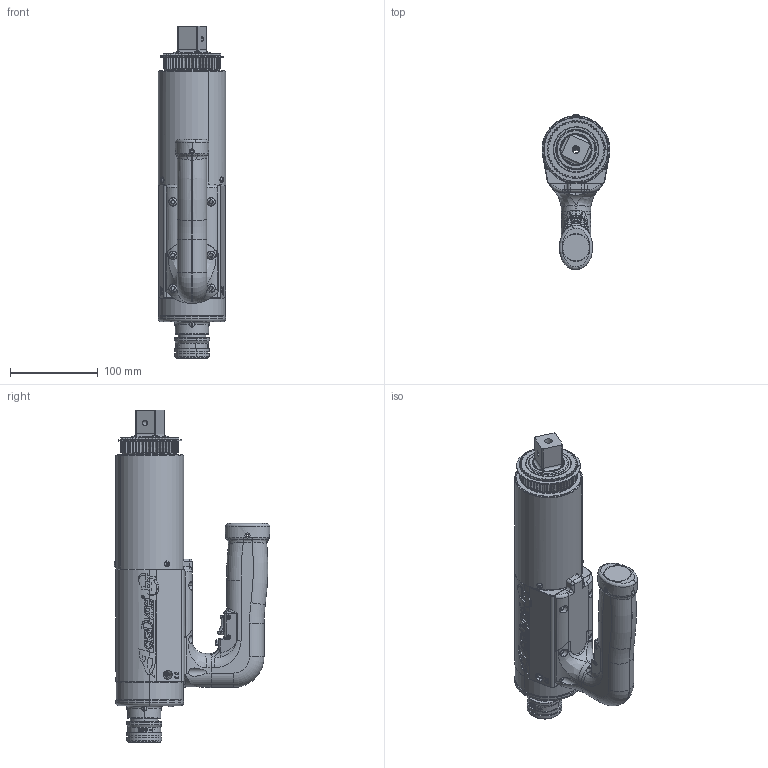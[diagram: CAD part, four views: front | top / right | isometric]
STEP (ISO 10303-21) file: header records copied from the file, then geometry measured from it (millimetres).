
FILE_DESCRIPTION (( 'STEP AP214' ), '1' );
FILE_NAME ('AEJ4A773000B.STEP', '2016-04-05T17:13:02', ( 'AIMCO' ), ( '' ), 'SwSTEP 2.0', 'SolidWorks 2016', '' );
FILE_SCHEMA (( 'AUTOMOTIVE_DESIGN' ));
Length unit declared in the file: inch
Products named in the file (1): AEJ4A773000B
Bounding box: 77.47 x 177.48 x 378.76 mm (x, y, z)
Surface area: 208320.6 mm2 (no closed solid volume)
Topology: 0 solids, 74 shells, 1350 faces, 5459 edges, 3969 vertices
Faces by surface type: cylinder 476, plane 361, bspline 269, torus 142, cone 94, sphere 8
Entity records: 140420 total; most frequent: CARTESIAN_POINT 82614, ORIENTED_EDGE 8394, DIRECTION 7124, EDGE_CURVE 5445, VERTEX_POINT 3967, AXIS2_PLACEMENT_3D 2631, LINE 1862, VECTOR 1862
